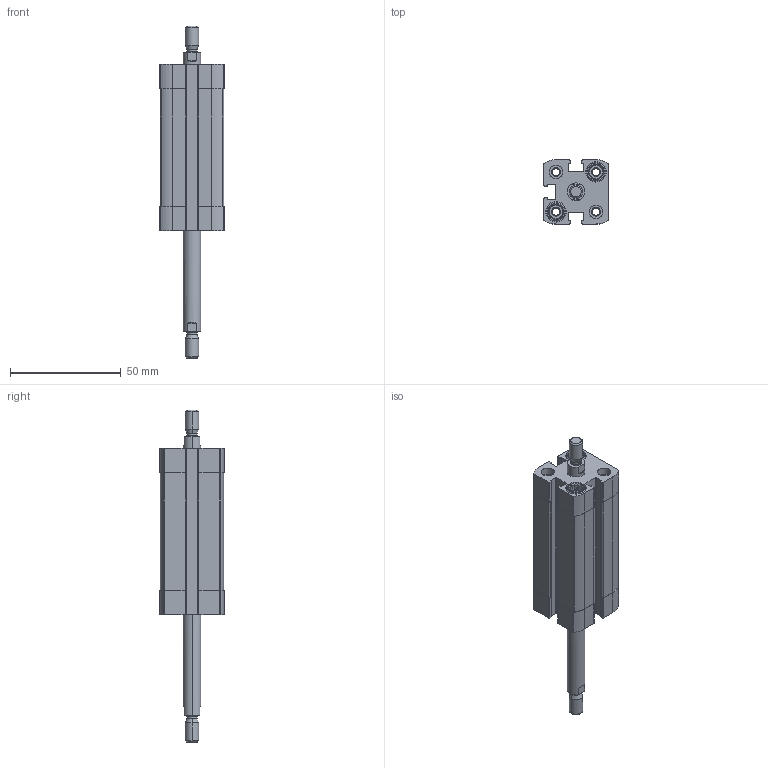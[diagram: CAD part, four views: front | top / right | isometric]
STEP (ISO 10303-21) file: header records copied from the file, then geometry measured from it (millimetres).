
FILE_DESCRIPTION (( 'STEP AP203' ), '1' );
FILE_NAME ('CCN16-40-P.STEP', '2020-06-22T18:37:55', ( '' ), ( '' ), 'SwSTEP 2.0', 'SolidWorks 2019', '' );
FILE_SCHEMA (( 'CONFIG_CONTROL_DESIGN' ));
Length unit declared in the file: millimetre
Products named in the file (1): CCN16-40-P
Bounding box: 29 x 29 x 149.7 mm (x, y, z)
Volume: 46308.8 mm3; surface area: 24642.7 mm2
Topology: 2 solids, 2 shells, 384 faces, 976 edges, 632 vertices
Faces by surface type: plane 192, cylinder 140, cone 44, torus 8
Entity records: 11783 total; most frequent: CARTESIAN_POINT 2293, DIRECTION 1986, ORIENTED_EDGE 1952, EDGE_CURVE 976, AXIS2_PLACEMENT_3D 725, VERTEX_POINT 632, LINE 536, VECTOR 536
